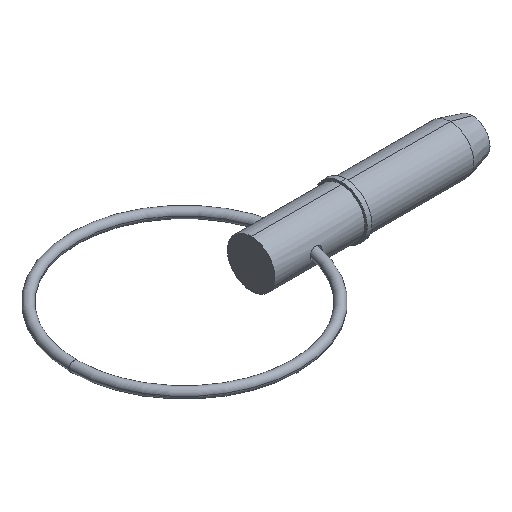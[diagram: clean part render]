
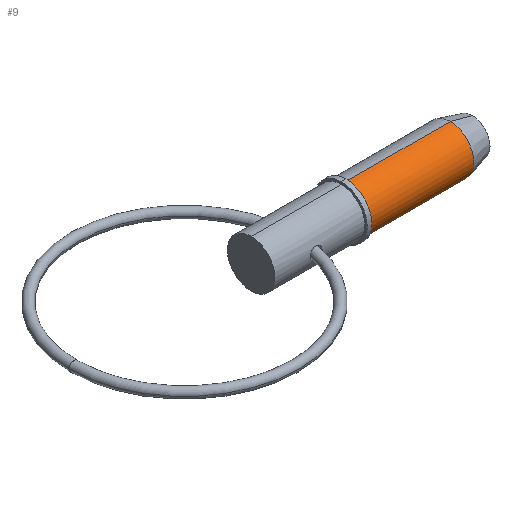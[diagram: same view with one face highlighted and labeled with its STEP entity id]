
A CAD part, isometric view. The second image highlights one B-rep face of the part: STEP entity #9.
In plain terms, the highlighted cylindrical face has radius 4.765 mm (diameter 9.53 mm), a partial arc.
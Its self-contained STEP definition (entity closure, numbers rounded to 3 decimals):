
#9 = ADVANCED_FACE ( 'NONE', ( #267 ), #77, .T. ) ;
#52 = ORIENTED_EDGE ( 'NONE', *, *, #240, .T. ) ;
#77 = CYLINDRICAL_SURFACE ( 'NONE', #524, 4.765 ) ;
#87 = CIRCLE ( 'NONE', #708, 4.765 ) ;
#240 = EDGE_CURVE ( 'NONE', #311, #470, #673, .T. ) ;
#245 = VERTEX_POINT ( 'NONE', #767 ) ;
#267 = FACE_OUTER_BOUND ( 'NONE', #541, .T. ) ;
#273 = DIRECTION ( 'NONE',  ( 1., 0., 0. ) ) ;
#287 = DIRECTION ( 'NONE',  ( 0., 0., -1. ) ) ;
#293 = CARTESIAN_POINT ( 'NONE',  ( 19.05, 0., 0. ) ) ;
#311 = VERTEX_POINT ( 'NONE', #1011 ) ;
#333 = ORIENTED_EDGE ( 'NONE', *, *, #412, .T. ) ;
#344 = VERTEX_POINT ( 'NONE', #848 ) ;
#353 = CARTESIAN_POINT ( 'NONE',  ( 0., 0., 4.765 ) ) ;
#363 = ORIENTED_EDGE ( 'NONE', *, *, #809, .F. ) ;
#364 = DIRECTION ( 'NONE',  ( 1., 0., 0. ) ) ;
#398 = DIRECTION ( 'NONE',  ( 0., 0., -1. ) ) ;
#412 = EDGE_CURVE ( 'NONE', #245, #311, #835, .T. ) ;
#415 = DIRECTION ( 'NONE',  ( 1., 0., 0. ) ) ;
#470 = VERTEX_POINT ( 'NONE', #870 ) ;
#472 = VECTOR ( 'NONE', #273, 1000. ) ;
#484 = CARTESIAN_POINT ( 'NONE',  ( 0., 0., 0. ) ) ;
#524 = AXIS2_PLACEMENT_3D ( 'NONE', #484, #415, #398 ) ;
#529 = DIRECTION ( 'NONE',  ( 0., 0., -1. ) ) ;
#541 = EDGE_LOOP ( 'NONE', ( #860, #333, #52, #363 ) ) ;
#607 = VECTOR ( 'NONE', #678, 1000. ) ;
#647 = EDGE_CURVE ( 'NONE', #245, #344, #660, .T. ) ;
#660 = LINE ( 'NONE', #353, #472 ) ;
#673 = LINE ( 'NONE', #755, #607 ) ;
#678 = DIRECTION ( 'NONE',  ( 1., 0., 0. ) ) ;
#683 = AXIS2_PLACEMENT_3D ( 'NONE', #293, #916, #529 ) ;
#708 = AXIS2_PLACEMENT_3D ( 'NONE', #998, #364, #287 ) ;
#755 = CARTESIAN_POINT ( 'NONE',  ( 0., 0., -4.765 ) ) ;
#767 = CARTESIAN_POINT ( 'NONE',  ( 19.05, 0., 4.765 ) ) ;
#809 = EDGE_CURVE ( 'NONE', #344, #470, #87, .T. ) ;
#835 = CIRCLE ( 'NONE', #683, 4.765 ) ;
#848 = CARTESIAN_POINT ( 'NONE',  ( 40.004, 0., 4.765 ) ) ;
#860 = ORIENTED_EDGE ( 'NONE', *, *, #647, .F. ) ;
#870 = CARTESIAN_POINT ( 'NONE',  ( 40.004, 0., -4.765 ) ) ;
#916 = DIRECTION ( 'NONE',  ( 1., 0., 0. ) ) ;
#998 = CARTESIAN_POINT ( 'NONE',  ( 40.004, 0., 0. ) ) ;
#1011 = CARTESIAN_POINT ( 'NONE',  ( 19.05, 0., -4.765 ) ) ;
